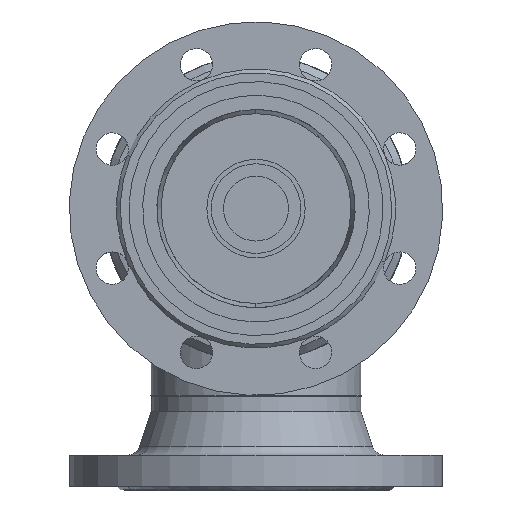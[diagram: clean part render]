
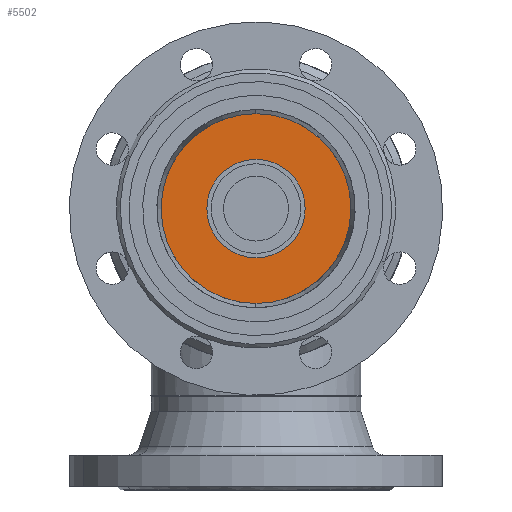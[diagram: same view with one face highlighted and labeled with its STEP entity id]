
A CAD part, front view. The second image highlights one B-rep face of the part: STEP entity #5502.
In plain terms, the highlighted planar face has unit normal (0, -1, 0) as drawn and (0, 0, 1) by its records, which use the part's own axes.
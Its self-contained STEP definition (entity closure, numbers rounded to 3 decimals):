
#1022 = EDGE_CURVE ( 'NONE', #6983, #4874, #6397, .T. ) ;
#1894 = CARTESIAN_POINT ( 'NONE',  ( -39.5, 0., 16. ) ) ;
#1950 = CIRCLE ( 'NONE', #1951, 39.5 ) ;
#1951 = AXIS2_PLACEMENT_3D ( 'NONE', #1952, #1953, #1954 ) ;
#1952 = CARTESIAN_POINT ( 'NONE',  ( 0., 0., 16. ) ) ;
#1953 = DIRECTION ( 'NONE',  ( 0., 0., 1. ) ) ;
#1954 = DIRECTION ( 'NONE',  ( 1., 0., 0. ) ) ;
#1978 = VERTEX_POINT ( 'NONE', #7345 ) ;
#2707 = CIRCLE ( 'NONE', #2708, 85. ) ;
#2708 = AXIS2_PLACEMENT_3D ( 'NONE', #2709, #2713, #2714 ) ;
#2709 = CARTESIAN_POINT ( 'NONE',  ( 0., 0., 16. ) ) ;
#2713 = DIRECTION ( 'NONE',  ( 0., 0., 1. ) ) ;
#2714 = DIRECTION ( 'NONE',  ( 1., 0., 0. ) ) ;
#3328 = CARTESIAN_POINT ( 'NONE',  ( 39.5, 0., 16. ) ) ;
#3427 = CIRCLE ( 'NONE', #3428, 85. ) ;
#3428 = AXIS2_PLACEMENT_3D ( 'NONE', #3429, #3430, #3431 ) ;
#3429 = CARTESIAN_POINT ( 'NONE',  ( 0., 0., 16. ) ) ;
#3430 = DIRECTION ( 'NONE',  ( 0., 0., 1. ) ) ;
#3431 = DIRECTION ( 'NONE',  ( 1., 0., 0. ) ) ;
#4606 = ORIENTED_EDGE ( 'NONE', *, *, #4897, .T. ) ;
#4709 = ORIENTED_EDGE ( 'NONE', *, *, #7127, .F. ) ;
#4795 = ORIENTED_EDGE ( 'NONE', *, *, #1022, .F. ) ;
#4874 = VERTEX_POINT ( 'NONE', #3328 ) ;
#4897 = EDGE_CURVE ( 'NONE', #9470, #1978, #3427, .T. ) ;
#5502 = ADVANCED_FACE ( 'NONE', ( #9023, #9024 ), #9025, .T. ) ;
#6397 = CIRCLE ( 'NONE', #6398, 39.5 ) ;
#6398 = AXIS2_PLACEMENT_3D ( 'NONE', #6399, #6400, #6401 ) ;
#6399 = CARTESIAN_POINT ( 'NONE',  ( 0., 0., 16. ) ) ;
#6400 = DIRECTION ( 'NONE',  ( 0., 0., 1. ) ) ;
#6401 = DIRECTION ( 'NONE',  ( 1., 0., 0. ) ) ;
#6767 = EDGE_LOOP ( 'NONE', ( #4795, #4709 ) ) ;
#6983 = VERTEX_POINT ( 'NONE', #1894 ) ;
#7127 = EDGE_CURVE ( 'NONE', #4874, #6983, #1950, .T. ) ;
#7345 = CARTESIAN_POINT ( 'NONE',  ( -85., 0., 16. ) ) ;
#7897 = EDGE_CURVE ( 'NONE', #1978, #9470, #2707, .T. ) ;
#7978 = ORIENTED_EDGE ( 'NONE', *, *, #7897, .T. ) ;
#9023 = FACE_OUTER_BOUND ( 'NONE', #9126, .T. ) ;
#9024 = FACE_BOUND ( 'NONE', #6767, .T. ) ;
#9025 = PLANE ( 'NONE',  #9026 ) ;
#9026 = AXIS2_PLACEMENT_3D ( 'NONE', #9027, #9028, #9029 ) ;
#9027 = CARTESIAN_POINT ( 'NONE',  ( 0., 0., 16. ) ) ;
#9028 = DIRECTION ( 'NONE',  ( 0., 0., 1. ) ) ;
#9029 = DIRECTION ( 'NONE',  ( 1., 0., 0. ) ) ;
#9126 = EDGE_LOOP ( 'NONE', ( #7978, #4606 ) ) ;
#9308 = CARTESIAN_POINT ( 'NONE',  ( 85., 0., 16. ) ) ;
#9470 = VERTEX_POINT ( 'NONE', #9308 ) ;
